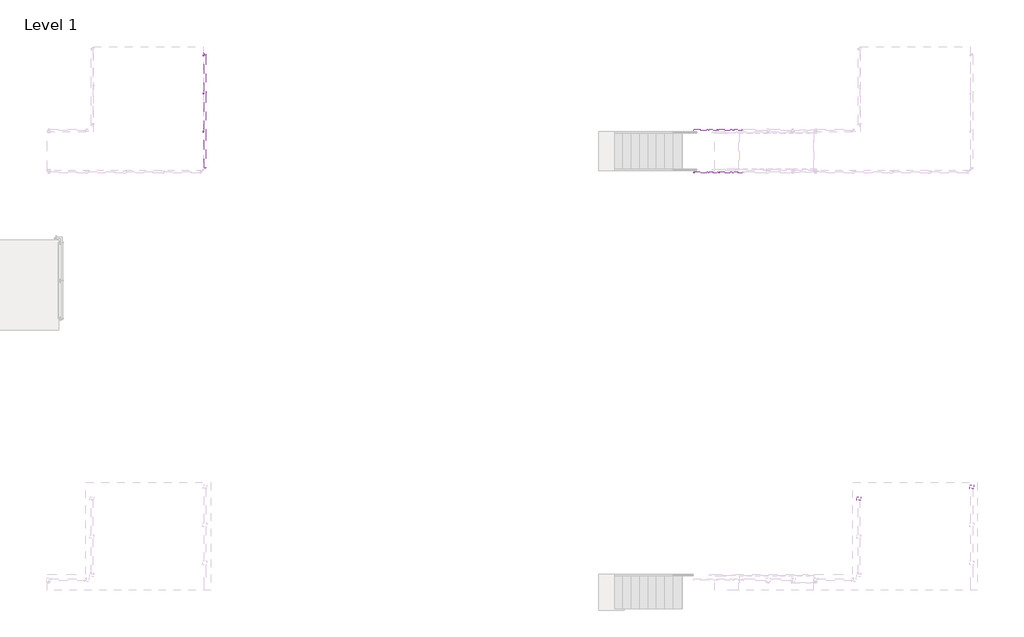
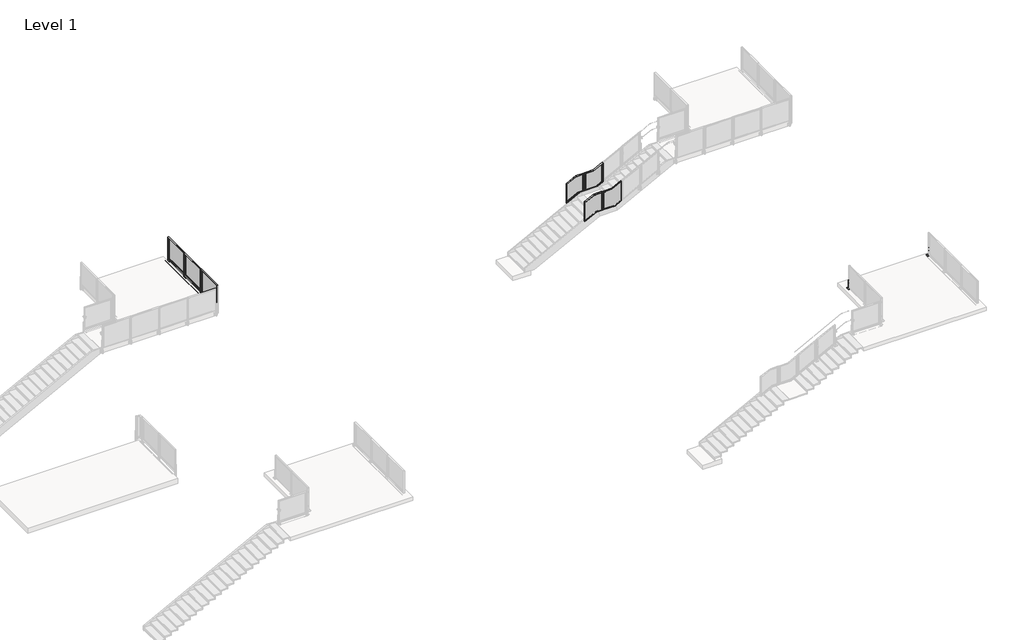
# One storey, part 21 of 37: 5 railings, 3 proxies.
"""IFC4 building model written with IfcOpenShell, lengths in millimetres."""

from ifc_helpers import new_model, si_unit, point, frame, frame_2d, origin, place, context, project, spatial, polyline, circle_curve, trimmed, segment, composite_curve, outline, extrude, faceted_brep, transform, mapped, element, save
from ifc_brep_helpers import plane_surface, cylinder_surface, advanced_brep
from components import baluster_end_post_viva_frame_top_mount_efd1a991, baluster_end_post_viva_frame_top_mount_welded_fascia_mount_f3869cb3, baluster_landing_panel_viva_frame_lower_standard_pp01_a1165722, baluster_landing_panel_viva_frame_lower_standard_pp01_71fd184b, baluster_landing_panel_viva_frame_upper_standard_pp01_df324889, baluster_landing_panel_viva_frame_upper_standard_pp01_eb854fba

model = new_model("IFC4")

# Units and contexts
model_context = context("Model", 3, world=origin())
ifc_project = project(units=[si_unit("LENGTHUNIT", "METRE", prefix="MILLI")], contexts=[model_context])

# Site, building, storey
site = spatial("IfcSite", under=ifc_project)
building = spatial("IfcBuilding", under=site)
storey = spatial("IfcBuildingStorey", under=building, Name="Level 1", Elevation=0.0)

# Proxies
placement = place(None, origin())
baluster_end_post_viva_frame_top_mount_shape = baluster_end_post_viva_frame_top_mount_efd1a991(model_context)
element("IfcBuildingElementProxy", 1, Name="Baluster-End-Post-VIVA-FRAME-Top Mount : ANCHORED TO CONCRETE_TOP MOUNT FOLD_STRAIGHT", ObjectType="Baluster-End-Post-VIVA-FRAME-Top Mount : ANCHORED TO CONCRETE_TOP MOUNT FOLD_STRAIGHT", at=placement, inside=storey, context=model_context, shape_type="MappedRepresentation", body=[
    mapped(baluster_end_post_viva_frame_top_mount_shape, transform((-5877.9959244, -14872.2829234, 3047.492), x_axis=(0.0, -1.0, 0.0), y_axis=(1.0, 0.0, 0.0), z_axis=(0.0, 0.0, 1.0))),
])
element("IfcBuildingElementProxy", 2, Name="Baluster-End-Post-VIVA-FRAME-Top Mount : ANCHORED TO CONCRETE_TOP MOUNT FOLD_STRAIGHT", ObjectType="Baluster-End-Post-VIVA-FRAME-Top Mount : ANCHORED TO CONCRETE_TOP MOUNT FOLD_STRAIGHT", at=placement, inside=storey, context=model_context, shape_type="MappedRepresentation", body=[
    mapped(baluster_end_post_viva_frame_top_mount_shape, transform((-2300.8759339, -14480.5208207, 3047.492), x_axis=(0.0, 1.0, 0.0), y_axis=(-1.0, 0.0, 0.0), z_axis=(0.0, 0.0, 1.0))),
])
baluster_end_post_viva_frame_top_mount_welded_fascia_mount_shape = baluster_end_post_viva_frame_top_mount_welded_fascia_mount_f3869cb3(model_context)
element("IfcBuildingElementProxy", 3, Name="Baluster-End-Post-VIVA-FRAME-Top Mount : WELDED Fascia MOUNT FOLD_STRAIGHT", ObjectType="Baluster-End-Post-VIVA-FRAME-Top Mount : WELDED Fascia MOUNT FOLD_STRAIGHT", at=placement, inside=storey, context=model_context, shape_type="MappedRepresentation", body=[
    mapped(baluster_end_post_viva_frame_top_mount_welded_fascia_mount_shape, transform((-27933.3000339, -32.9169538, 3047.492), x_axis=(0.0, 1.0, 0.0), y_axis=(-1.0, 0.0, 0.0), z_axis=(0.0, 0.0, 1.0))),
])

# Railings
baluster_landing_panel_viva_frame_lower_standard_pp01_shape = baluster_landing_panel_viva_frame_lower_standard_pp01_a1165722(model_context)
element("IfcRailing", 4, ObjectType="Baluster-Landing-Panel-VIVA-FRAME-Lower : Standard_PP01", at=placement, inside=storey, context=model_context, shape_type="MappedRepresentation", body=[
    mapped(baluster_landing_panel_viva_frame_lower_standard_pp01_shape, transform((-11484.6546311, -4005.1040233, 1733.4542898), x_axis=(0.0, 1.0, 0.0), y_axis=(-1.0, 0.0, 0.0), z_axis=(0.0, 0.0, 1.0))),
])
baluster_landing_panel_viva_frame_lower_standard_pp01_2_shape = baluster_landing_panel_viva_frame_lower_standard_pp01_71fd184b(model_context)
element("IfcRailing", 5, ObjectType="Baluster-Landing-Panel-VIVA-FRAME-Lower : Standard_PP01", at=placement, inside=storey, context=model_context, shape_type="MappedRepresentation", body=[
    mapped(baluster_landing_panel_viva_frame_lower_standard_pp01_2_shape, transform((-11484.6546311, -2513.2829651, 1733.4542898), x_axis=(0.0, -1.0, 0.0), y_axis=(1.0, 0.0, 0.0), z_axis=(0.0, 0.0, 1.0))),
])
baluster_landing_panel_viva_frame_upper_standard_pp01_shape = baluster_landing_panel_viva_frame_upper_standard_pp01_df324889(model_context)
element("IfcRailing", 6, ObjectType="Baluster-Landing-Panel-VIVA-FRAME-Upper : Standard_PP01", at=placement, inside=storey, context=model_context, shape_type="MappedRepresentation", body=[
    mapped(baluster_landing_panel_viva_frame_upper_standard_pp01_shape, transform((-10816.5460392, -4059.7684376, 1736.2385299), x_axis=(0.0, 1.0, 0.0), y_axis=(-1.0, 0.0, 0.0), z_axis=(0.0, 0.0, 1.0))),
])
baluster_landing_panel_viva_frame_upper_standard_pp01_2_shape = baluster_landing_panel_viva_frame_upper_standard_pp01_eb854fba(model_context)
element("IfcRailing", 7, ObjectType="Baluster-Landing-Panel-VIVA-FRAME-Upper : Standard_PP01", at=placement, inside=storey, context=model_context, shape_type="MappedRepresentation", body=[
    mapped(baluster_landing_panel_viva_frame_upper_standard_pp01_2_shape, transform((-10816.5460392, -2458.6185508, 1736.2385299), x_axis=(0.0, -1.0, 0.0), y_axis=(1.0, 0.0, 0.0), z_axis=(0.0, 0.0, 1.0))),
])
element("IfcRailing", 8, ObjectType="Metal-Panel-VIVA-FRAME-Fascia-Straight", at=placement, inside=storey, context=model_context, shape_type="SolidModel", body=[
    extrude(outline(composite_curve([segment(trimmed(circle_curve(frame_2d((3047.746, -27933.3000339)), 0.254), [point((3047.746, -27933.0460339))], [point((3047.746, -27933.5540339))], False, "CARTESIAN"), True, "CONTINUOUS"), segment(trimmed(circle_curve(frame_2d((3047.746, -27933.3000339)), 0.254), [point((3047.746, -27933.5540339))], [point((3047.746, -27933.0460339))], False, "CARTESIAN"), True, "CONTINUOUS")], self_intersect=False)), frame((0.0, -3842.9169538, 0.0), z_axis=(0.0, 1.0, 0.0), x_axis=(0.0, 0.0, 1.0)), (0.0, 0.0, 1.0), 3810.0),
    extrude(outline(composite_curve([segment(trimmed(circle_curve(frame_2d((3047.746, -27933.3000339)), 0.254), [point((3047.746, -27933.0460339))], [point((3047.746, -27933.5540339))], False, "CARTESIAN"), True, "CONTINUOUS"), segment(trimmed(circle_curve(frame_2d((3047.746, -27933.3000339)), 0.254), [point((3047.746, -27933.5540339))], [point((3047.746, -27933.0460339))], False, "CARTESIAN"), True, "CONTINUOUS")], self_intersect=False)), frame((0.0, -3842.9169538, 0.0), z_axis=(0.0, 1.0, 0.0), x_axis=(0.0, 0.0, 1.0)), (0.0, 0.0, 1.0), 3810.0),
    extrude(outline(polyline([(-27778.8412339, -1262.0904969), (-27781.8412339, -1262.0904969), (-27781.8412339, -73.7434108), (-27778.8412339, -73.7434108), (-27778.8412339, -1262.0904969)])), frame((0.0, 0.0, 3124.1959569), z_axis=(0.0, 0.0, 1.0), x_axis=(1.0, 0.0, 0.0)), (0.0, 0.0, 1.0), 990.5826861),
    faceted_brep([(-27778.8412339, -1287.4904969, 4140.1786431), (-27778.8412339, -1287.4904969, 3098.7959569), (-27778.8412339, -48.3434108, 3098.7959569), (-27778.8412339, -48.3434108, 4140.1786431), (-27778.8412339, -1262.0904969, 4114.7786431), (-27778.8412339, -73.7434108, 4114.7786431), (-27778.8412339, -73.7434108, 3124.1959569), (-27778.8412339, -1262.0904969, 3124.1959569), (-27781.8412339, -73.7434108, 3124.1959569), (-27781.8412339, -1262.0904969, 3124.1959569), (-27781.8412339, -73.7434108, 4114.7786431), (-27781.8412339, -1262.0904969, 4114.7786431), (-27832.6412339, -1281.4960969, 3104.7903569), (-27801.8310339, -1281.4960969, 3104.7903569), (-27801.8310339, -54.3378108, 3104.7903569), (-27832.6412339, -54.3378108, 3104.7903569), (-27801.8310339, -54.3378108, 4134.1842431), (-27832.6412339, -54.3378108, 4134.1842431), (-27832.6412339, -1281.4960969, 4134.1842431), (-27801.8310339, -1281.4960969, 4134.1842431), (-27832.6412339, -48.3434108, 3098.7959569), (-27832.6412339, -1287.4904969, 3098.7959569), (-27832.6412339, -1287.4904969, 4140.1786431), (-27832.6412339, -48.3434108, 4140.1786431), (-27781.8412339, -1236.6904969, 4089.3786431), (-27781.8412339, -99.1434108, 4089.3786431), (-27781.8412339, -99.1434108, 3149.5959569), (-27781.8412339, -1236.6904969, 3149.5959569), (-27801.8310339, -99.1434108, 3149.5959569), (-27801.8310339, -99.1434108, 4089.3786431), (-27801.8310339, -1236.6904969, 4089.3786431), (-27801.8310339, -1236.6904969, 3149.5959569)], [[[0, 1, 2, 3], [4, 5, 6, 7]], [[7, 6, 8, 9]], [[6, 5, 10, 8]], [[5, 4, 11, 10]], [[4, 7, 9, 11]], [[12, 13, 14, 15]], [[15, 14, 16, 17]], [[13, 12, 18, 19]], [[20, 21, 22, 23], [12, 15, 17, 18]], [[21, 1, 0, 22]], [[21, 20, 2, 1]], [[2, 20, 23, 3]], [[22, 0, 3, 23]], [[11, 9, 8, 10], [24, 25, 26, 27]], [[14, 13, 19, 16], [28, 29, 30, 31]], [[19, 18, 17, 16]], [[25, 24, 30, 29]], [[26, 25, 29, 28]], [[27, 26, 28, 31]], [[24, 27, 31, 30]]]),
    extrude(outline(composite_curve([segment(polyline([(-27784.4163271, -1325.1419538), (-27842.3172339, -1325.1419538), (-27842.3172339, -1280.6919538), (-27784.4163271, -1280.6919538)]), True, "CONTINUOUS"), segment(trimmed(circle_curve(frame_2d((-27784.4163271, -1302.9169538)), 22.225), [point((-27784.4163271, -1280.6919538))], [point((-27784.4163271, -1325.1419538))], False, "CARTESIAN"), True, "CONTINUOUS")], self_intersect=False)), frame((0.0, 0.0, 2859.0748), z_axis=(0.0, 0.0, 1.0), x_axis=(1.0, 0.0, 0.0)), (0.0, 0.0, 1.0), 12.7),
    extrude(outline(composite_curve([segment(polyline([(-27842.3172339, -1280.6919538), (-27784.4163271, -1280.6919538)]), True, "CONTINUOUS"), segment(trimmed(circle_curve(frame_2d((-27784.4163271, -1302.9169538)), 22.225), [point((-27784.4163271, -1280.6919538))], [point((-27784.4163271, -1325.1419538))], False, "CARTESIAN"), True, "CONTINUOUS"), segment(polyline([(-27784.4163271, -1325.1419538), (-27842.3172339, -1325.1419538), (-27842.3172339, -1280.6919538)]), True, "CONTINUOUS")], self_intersect=False)), frame((0.0, 0.0, 2921.0), z_axis=(0.0, 0.0, 1.0), x_axis=(1.0, 0.0, 0.0)), (0.0, 0.0, 1.0), 12.7),
    extrude(outline(composite_curve([segment(trimmed(circle_curve(frame_2d((-1258.4720219, 2941.6502)), 4.7752), [point((-1253.6968219, 2941.6502))], [point((-1263.2472219, 2941.6502))], False, "CARTESIAN"), True, "CONTINUOUS"), segment(trimmed(circle_curve(frame_2d((-1258.4720219, 2941.6502)), 4.7752), [point((-1263.2472219, 2941.6502))], [point((-1253.6968219, 2941.6502))], False, "CARTESIAN"), True, "CONTINUOUS")], self_intersect=False)), frame((-27851.8422339, 0.0, 0.0), z_axis=(1.0, 0.0, 0.0), x_axis=(0.0, 1.0, 0.0)), (0.0, 0.0, 1.0), 14.3002),
    extrude(outline(composite_curve([segment(trimmed(circle_curve(frame_2d((-1347.3618857, 2941.6502)), 4.7752), [point((-1342.5866857, 2941.6502))], [point((-1352.1370857, 2941.6502))], False, "CARTESIAN"), True, "CONTINUOUS"), segment(trimmed(circle_curve(frame_2d((-1347.3618857, 2941.6502)), 4.7752), [point((-1352.1370857, 2941.6502))], [point((-1342.5866857, 2941.6502))], False, "CARTESIAN"), True, "CONTINUOUS")], self_intersect=False)), frame((-27851.8422339, 0.0, 0.0), z_axis=(1.0, 0.0, 0.0), x_axis=(0.0, 1.0, 0.0)), (0.0, 0.0, 1.0), 14.3002),
    extrude(outline(composite_curve([segment(trimmed(circle_curve(frame_2d((-1347.3618857, 2852.7502)), 4.7752), [point((-1342.5866857, 2852.7502))], [point((-1352.1370857, 2852.7502))], False, "CARTESIAN"), True, "CONTINUOUS"), segment(trimmed(circle_curve(frame_2d((-1347.3618857, 2852.7502)), 4.7752), [point((-1352.1370857, 2852.7502))], [point((-1342.5866857, 2852.7502))], False, "CARTESIAN"), True, "CONTINUOUS")], self_intersect=False)), frame((-27851.8422339, 0.0, 0.0), z_axis=(1.0, 0.0, 0.0), x_axis=(0.0, 1.0, 0.0)), (0.0, 0.0, 1.0), 14.3002),
    extrude(outline(composite_curve([segment(trimmed(circle_curve(frame_2d((-1258.4720219, 2852.7502)), 4.7752), [point((-1253.6968219, 2852.7502))], [point((-1263.2472219, 2852.7502))], False, "CARTESIAN"), True, "CONTINUOUS"), segment(trimmed(circle_curve(frame_2d((-1258.4720219, 2852.7502)), 4.7752), [point((-1263.2472219, 2852.7502))], [point((-1253.6968219, 2852.7502))], False, "CARTESIAN"), True, "CONTINUOUS")], self_intersect=False)), frame((-27851.8422339, 0.0, 0.0), z_axis=(1.0, 0.0, 0.0), x_axis=(0.0, 1.0, 0.0)), (0.0, 0.0, 1.0), 14.3002),
    extrude(outline(polyline([(-27851.8422339, -1239.4189323), (-27851.8422339, -1366.4149754), (-27861.3672339, -1366.4149754), (-27861.3672339, -1239.4189323), (-27851.8422339, -1239.4189323)])), frame((0.0, 0.0, 2833.7002), z_axis=(0.0, 0.0, 1.0), x_axis=(1.0, 0.0, 0.0)), (0.0, 0.0, 1.0), 127.0),
    extrude(outline(polyline([(-27842.3172339, -1239.4189323), (-27842.3172339, -1366.4149754), (-27851.8422339, -1366.4149754), (-27851.8422339, -1239.4189323), (-27842.3172339, -1239.4189323)])), frame((0.0, 0.0, 2833.7002), z_axis=(0.0, 0.0, 1.0), x_axis=(1.0, 0.0, 0.0)), (0.0, 0.0, 1.0), 127.0),
    advanced_brep(
    [(-27804.2172339, -1329.1043538, 3178.1496), (-27804.2172339, -1329.1043538, 3197.2504), (-27804.2172339, -1329.1043538, 3187.7), (-27804.2172339, -1324.3291538, 3178.1496), (-27804.2172339, -1324.3291538, 3197.2504), (-27804.2172339, -1324.3291538, 3182.9248), (-27804.2172339, -1324.3291538, 3192.4752), (-27804.2172339, -1281.5047538, 3182.9248), (-27804.2172339, -1281.5047538, 3192.4752), (-27804.2172339, -1281.5047538, 3178.1496), (-27804.2172339, -1281.5047538, 3197.2504), (-27804.2172339, -1276.7295538, 3178.1496), (-27804.2172339, -1276.7295538, 3197.2504), (-27804.2172339, -1276.7295538, 3187.7)],
    [
        (0, 1, circle_curve(frame((-27804.2172339, -1329.1043538, 3187.7), z_axis=(0.0, -1.0, 0.0), x_axis=(0.0, 0.0, 1.0)), 9.5504)),
        (1, 2),
        (2, 0),
        (1, 0, circle_curve(frame((-27804.2172339, -1329.1043538, 3187.7), z_axis=(0.0, -1.0, 0.0), x_axis=(0.0, 0.0, 1.0)), 9.5504)),
        (3, 4, circle_curve(frame((-27804.2172339, -1324.3291538, 3187.7), z_axis=(0.0, -1.0, 0.0), x_axis=(0.0, 0.0, 1.0)), 9.5504)),
        (4, 1),
        (0, 3),
        (4, 3, circle_curve(frame((-27804.2172339, -1324.3291538, 3187.7), z_axis=(0.0, -1.0, 0.0), x_axis=(0.0, 0.0, 1.0)), 9.5504)),
        (5, 6, circle_curve(frame((-27804.2172339, -1324.3291538, 3187.7), z_axis=(0.0, -1.0, 0.0), x_axis=(0.0, 0.0, 1.0)), 4.7752)),
        (6, 4),
        (3, 5),
        (6, 5, circle_curve(frame((-27804.2172339, -1324.3291538, 3187.7), z_axis=(0.0, -1.0, 0.0), x_axis=(0.0, 0.0, 1.0)), 4.7752)),
        (7, 8, circle_curve(frame((-27804.2172339, -1281.5047538, 3187.7), z_axis=(0.0, -1.0, 0.0), x_axis=(0.0, 0.0, 1.0)), 4.7752)),
        (8, 6),
        (5, 7),
        (8, 7, circle_curve(frame((-27804.2172339, -1281.5047538, 3187.7), z_axis=(0.0, -1.0, 0.0), x_axis=(0.0, 0.0, 1.0)), 4.7752)),
        (9, 10, circle_curve(frame((-27804.2172339, -1281.5047538, 3187.7), z_axis=(0.0, -1.0, 0.0), x_axis=(0.0, 0.0, 1.0)), 9.5504)),
        (10, 8),
        (7, 9),
        (10, 9, circle_curve(frame((-27804.2172339, -1281.5047538, 3187.7), z_axis=(0.0, -1.0, 0.0), x_axis=(0.0, 0.0, 1.0)), 9.5504)),
        (11, 12, circle_curve(frame((-27804.2172339, -1276.7295538, 3187.7), z_axis=(0.0, -1.0, 0.0), x_axis=(0.0, 0.0, 1.0)), 9.5504)),
        (12, 10),
        (9, 11),
        (12, 11, circle_curve(frame((-27804.2172339, -1276.7295538, 3187.7), z_axis=(0.0, -1.0, 0.0), x_axis=(0.0, 0.0, 1.0)), 9.5504)),
        (13, 12),
        (11, 13),
    ],
    [
        plane_surface(frame((-27804.2172339, -1329.1043538, 3187.7), z_axis=(0.0, -1.0, 0.0), x_axis=(0.0, 0.0, 1.0))),
        cylinder_surface(frame((-27804.2172339, -4720.684711, 3187.7), z_axis=(0.0, 1.0, 0.0), x_axis=(0.0, 0.0, 1.0)), 9.5504),
        plane_surface(frame((-27804.2172339, -1324.3291538, 3187.7), z_axis=(0.0, 1.0, 0.0), x_axis=(0.0, 0.0, 1.0))),
        cylinder_surface(frame((-27804.2172339, -4720.684711, 3187.7), z_axis=(0.0, 1.0, 0.0), x_axis=(0.0, 0.0, 1.0)), 4.7752),
        plane_surface(frame((-27804.2172339, -1281.5047538, 3187.7), z_axis=(0.0, -1.0, 0.0), x_axis=(0.0, 0.0, 1.0))),
        plane_surface(frame((-27804.2172339, -1276.7295538, 3187.7), z_axis=(0.0, 1.0, 0.0), x_axis=(0.0, 0.0, 1.0))),
    ],
    [
        (0, [[1, 2, 3]]),
        (0, [[4, -3, -2]]),
        (1, [[5, 6, -1, 7]]),
        (1, [[8, -7, -4, -6]]),
        (2, [[9, 10, -5, 11]]),
        (2, [[12, -11, -8, -10]]),
        (3, [[13, 14, -9, 15]]),
        (3, [[16, -15, -12, -14]]),
        (4, [[17, 18, -13, 19]]),
        (4, [[20, -19, -16, -18]]),
        (1, [[21, 22, -17, 23]]),
        (1, [[24, -23, -20, -22]]),
        (5, [[25, -21, 26]]),
        (5, [[-26, -24, -25]]),
    ],
),
    advanced_brep(
    [(-27804.2172339, -1329.1043538, 3419.4496), (-27804.2172339, -1329.1043538, 3438.5504), (-27804.2172339, -1329.1043538, 3429.0), (-27804.2172339, -1324.3291538, 3419.4496), (-27804.2172339, -1324.3291538, 3438.5504), (-27804.2172339, -1324.3291538, 3424.2248), (-27804.2172339, -1324.3291538, 3433.7752), (-27804.2172339, -1281.5047538, 3424.2248), (-27804.2172339, -1281.5047538, 3433.7752), (-27804.2172339, -1281.5047538, 3419.4496), (-27804.2172339, -1281.5047538, 3438.5504), (-27804.2172339, -1276.7295538, 3419.4496), (-27804.2172339, -1276.7295538, 3438.5504), (-27804.2172339, -1276.7295538, 3429.0)],
    [
        (0, 1, circle_curve(frame((-27804.2172339, -1329.1043538, 3429.0), z_axis=(0.0, -1.0, 0.0), x_axis=(0.0, 0.0, 1.0)), 9.5504)),
        (1, 2),
        (2, 0),
        (1, 0, circle_curve(frame((-27804.2172339, -1329.1043538, 3429.0), z_axis=(0.0, -1.0, 0.0), x_axis=(0.0, 0.0, 1.0)), 9.5504)),
        (3, 4, circle_curve(frame((-27804.2172339, -1324.3291538, 3429.0), z_axis=(0.0, -1.0, 0.0), x_axis=(0.0, 0.0, 1.0)), 9.5504)),
        (4, 1),
        (0, 3),
        (4, 3, circle_curve(frame((-27804.2172339, -1324.3291538, 3429.0), z_axis=(0.0, -1.0, 0.0), x_axis=(0.0, 0.0, 1.0)), 9.5504)),
        (5, 6, circle_curve(frame((-27804.2172339, -1324.3291538, 3429.0), z_axis=(0.0, -1.0, 0.0), x_axis=(0.0, 0.0, 1.0)), 4.7752)),
        (6, 4),
        (3, 5),
        (6, 5, circle_curve(frame((-27804.2172339, -1324.3291538, 3429.0), z_axis=(0.0, -1.0, 0.0), x_axis=(0.0, 0.0, 1.0)), 4.7752)),
        (7, 8, circle_curve(frame((-27804.2172339, -1281.5047538, 3429.0), z_axis=(0.0, -1.0, 0.0), x_axis=(0.0, 0.0, 1.0)), 4.7752)),
        (8, 6),
        (5, 7),
        (8, 7, circle_curve(frame((-27804.2172339, -1281.5047538, 3429.0), z_axis=(0.0, -1.0, 0.0), x_axis=(0.0, 0.0, 1.0)), 4.7752)),
        (9, 10, circle_curve(frame((-27804.2172339, -1281.5047538, 3429.0), z_axis=(0.0, -1.0, 0.0), x_axis=(0.0, 0.0, 1.0)), 9.5504)),
        (10, 8),
        (7, 9),
        (10, 9, circle_curve(frame((-27804.2172339, -1281.5047538, 3429.0), z_axis=(0.0, -1.0, 0.0), x_axis=(0.0, 0.0, 1.0)), 9.5504)),
        (11, 12, circle_curve(frame((-27804.2172339, -1276.7295538, 3429.0), z_axis=(0.0, -1.0, 0.0), x_axis=(0.0, 0.0, 1.0)), 9.5504)),
        (12, 10),
        (9, 11),
        (12, 11, circle_curve(frame((-27804.2172339, -1276.7295538, 3429.0), z_axis=(0.0, -1.0, 0.0), x_axis=(0.0, 0.0, 1.0)), 9.5504)),
        (13, 12),
        (11, 13),
    ],
    [
        plane_surface(frame((-27804.2172339, -1329.1043538, 3429.0), z_axis=(0.0, -1.0, 0.0), x_axis=(0.0, 0.0, 1.0))),
        cylinder_surface(frame((-27804.2172339, -4720.684711, 3429.0), z_axis=(0.0, 1.0, 0.0), x_axis=(0.0, 0.0, 1.0)), 9.5504),
        plane_surface(frame((-27804.2172339, -1324.3291538, 3429.0), z_axis=(0.0, 1.0, 0.0), x_axis=(0.0, 0.0, 1.0))),
        cylinder_surface(frame((-27804.2172339, -4720.684711, 3429.0), z_axis=(0.0, 1.0, 0.0), x_axis=(0.0, 0.0, 1.0)), 4.7752),
        plane_surface(frame((-27804.2172339, -1281.5047538, 3429.0), z_axis=(0.0, -1.0, 0.0), x_axis=(0.0, 0.0, 1.0))),
        plane_surface(frame((-27804.2172339, -1276.7295538, 3429.0), z_axis=(0.0, 1.0, 0.0), x_axis=(0.0, 0.0, 1.0))),
    ],
    [
        (0, [[1, 2, 3]]),
        (0, [[4, -3, -2]]),
        (1, [[5, 6, -1, 7]]),
        (1, [[8, -7, -4, -6]]),
        (2, [[9, 10, -5, 11]]),
        (2, [[12, -11, -8, -10]]),
        (3, [[13, 14, -9, 15]]),
        (3, [[16, -15, -12, -14]]),
        (4, [[17, 18, -13, 19]]),
        (4, [[20, -19, -16, -18]]),
        (1, [[21, 22, -17, 23]]),
        (1, [[24, -23, -20, -22]]),
        (5, [[25, -21, 26]]),
        (5, [[-26, -24, -25]]),
    ],
),
    extrude(outline(polyline([(-27826.4422339, -1310.8565455), (-27826.4422339, -1294.9773622), (-27781.9922339, -1294.9773622), (-27781.9922339, -1310.8565455), (-27826.4422339, -1310.8565455)])), frame((0.0, 0.0, 2865.4248), z_axis=(0.0, 0.0, 1.0), x_axis=(1.0, 0.0, 0.0)), (0.0, 0.0, 1.0), 588.9752),
    extrude(outline(polyline([(-27778.8412339, -2532.0904969), (-27781.8412339, -2532.0904969), (-27781.8412339, -1343.7434108), (-27778.8412339, -1343.7434108), (-27778.8412339, -2532.0904969)])), frame((0.0, 0.0, 3124.1959569), z_axis=(0.0, 0.0, 1.0), x_axis=(1.0, 0.0, 0.0)), (0.0, 0.0, 1.0), 990.5826861),
    faceted_brep([(-27778.8412339, -2557.4904969, 4140.1786431), (-27778.8412339, -2557.4904969, 3098.7959569), (-27778.8412339, -1318.3434108, 3098.7959569), (-27778.8412339, -1318.3434108, 4140.1786431), (-27778.8412339, -2532.0904969, 4114.7786431), (-27778.8412339, -1343.7434108, 4114.7786431), (-27778.8412339, -1343.7434108, 3124.1959569), (-27778.8412339, -2532.0904969, 3124.1959569), (-27781.8412339, -1343.7434108, 3124.1959569), (-27781.8412339, -2532.0904969, 3124.1959569), (-27781.8412339, -1343.7434108, 4114.7786431), (-27781.8412339, -2532.0904969, 4114.7786431), (-27832.6412339, -2551.4960969, 3104.7903569), (-27801.8310339, -2551.4960969, 3104.7903569), (-27801.8310339, -1324.3378108, 3104.7903569), (-27832.6412339, -1324.3378108, 3104.7903569), (-27801.8310339, -1324.3378108, 4134.1842431), (-27832.6412339, -1324.3378108, 4134.1842431), (-27832.6412339, -2551.4960969, 4134.1842431), (-27801.8310339, -2551.4960969, 4134.1842431), (-27832.6412339, -1318.3434108, 3098.7959569), (-27832.6412339, -2557.4904969, 3098.7959569), (-27832.6412339, -2557.4904969, 4140.1786431), (-27832.6412339, -1318.3434108, 4140.1786431), (-27781.8412339, -2506.6904969, 4089.3786431), (-27781.8412339, -1369.1434108, 4089.3786431), (-27781.8412339, -1369.1434108, 3149.5959569), (-27781.8412339, -2506.6904969, 3149.5959569), (-27801.8310339, -1369.1434108, 3149.5959569), (-27801.8310339, -1369.1434108, 4089.3786431), (-27801.8310339, -2506.6904969, 4089.3786431), (-27801.8310339, -2506.6904969, 3149.5959569)], [[[0, 1, 2, 3], [4, 5, 6, 7]], [[7, 6, 8, 9]], [[6, 5, 10, 8]], [[5, 4, 11, 10]], [[4, 7, 9, 11]], [[12, 13, 14, 15]], [[15, 14, 16, 17]], [[13, 12, 18, 19]], [[20, 21, 22, 23], [12, 15, 17, 18]], [[21, 1, 0, 22]], [[21, 20, 2, 1]], [[2, 20, 23, 3]], [[22, 0, 3, 23]], [[11, 9, 8, 10], [24, 25, 26, 27]], [[14, 13, 19, 16], [28, 29, 30, 31]], [[19, 18, 17, 16]], [[25, 24, 30, 29]], [[26, 25, 29, 28]], [[27, 26, 28, 31]], [[24, 27, 31, 30]]]),
    extrude(outline(composite_curve([segment(polyline([(-27784.4163271, -2595.1419538), (-27842.3172339, -2595.1419538), (-27842.3172339, -2550.6919538), (-27784.4163271, -2550.6919538)]), True, "CONTINUOUS"), segment(trimmed(circle_curve(frame_2d((-27784.4163271, -2572.9169538)), 22.225), [point((-27784.4163271, -2550.6919538))], [point((-27784.4163271, -2595.1419538))], False, "CARTESIAN"), True, "CONTINUOUS")], self_intersect=False)), frame((0.0, 0.0, 2859.0748), z_axis=(0.0, 0.0, 1.0), x_axis=(1.0, 0.0, 0.0)), (0.0, 0.0, 1.0), 12.7),
    extrude(outline(composite_curve([segment(polyline([(-27842.3172339, -2550.6919538), (-27784.4163271, -2550.6919538)]), True, "CONTINUOUS"), segment(trimmed(circle_curve(frame_2d((-27784.4163271, -2572.9169538)), 22.225), [point((-27784.4163271, -2550.6919538))], [point((-27784.4163271, -2595.1419538))], False, "CARTESIAN"), True, "CONTINUOUS"), segment(polyline([(-27784.4163271, -2595.1419538), (-27842.3172339, -2595.1419538), (-27842.3172339, -2550.6919538)]), True, "CONTINUOUS")], self_intersect=False)), frame((0.0, 0.0, 2921.0), z_axis=(0.0, 0.0, 1.0), x_axis=(1.0, 0.0, 0.0)), (0.0, 0.0, 1.0), 12.7),
    extrude(outline(composite_curve([segment(trimmed(circle_curve(frame_2d((-2528.4720219, 2941.6502)), 4.7752), [point((-2523.6968219, 2941.6502))], [point((-2533.2472219, 2941.6502))], False, "CARTESIAN"), True, "CONTINUOUS"), segment(trimmed(circle_curve(frame_2d((-2528.4720219, 2941.6502)), 4.7752), [point((-2533.2472219, 2941.6502))], [point((-2523.6968219, 2941.6502))], False, "CARTESIAN"), True, "CONTINUOUS")], self_intersect=False)), frame((-27851.8422339, 0.0, 0.0), z_axis=(1.0, 0.0, 0.0), x_axis=(0.0, 1.0, 0.0)), (0.0, 0.0, 1.0), 14.3002),
    extrude(outline(composite_curve([segment(trimmed(circle_curve(frame_2d((-2617.3618857, 2941.6502)), 4.7752), [point((-2612.5866857, 2941.6502))], [point((-2622.1370857, 2941.6502))], False, "CARTESIAN"), True, "CONTINUOUS"), segment(trimmed(circle_curve(frame_2d((-2617.3618857, 2941.6502)), 4.7752), [point((-2622.1370857, 2941.6502))], [point((-2612.5866857, 2941.6502))], False, "CARTESIAN"), True, "CONTINUOUS")], self_intersect=False)), frame((-27851.8422339, 0.0, 0.0), z_axis=(1.0, 0.0, 0.0), x_axis=(0.0, 1.0, 0.0)), (0.0, 0.0, 1.0), 14.3002),
    extrude(outline(composite_curve([segment(trimmed(circle_curve(frame_2d((-2617.3618857, 2852.7502)), 4.7752), [point((-2612.5866857, 2852.7502))], [point((-2622.1370857, 2852.7502))], False, "CARTESIAN"), True, "CONTINUOUS"), segment(trimmed(circle_curve(frame_2d((-2617.3618857, 2852.7502)), 4.7752), [point((-2622.1370857, 2852.7502))], [point((-2612.5866857, 2852.7502))], False, "CARTESIAN"), True, "CONTINUOUS")], self_intersect=False)), frame((-27851.8422339, 0.0, 0.0), z_axis=(1.0, 0.0, 0.0), x_axis=(0.0, 1.0, 0.0)), (0.0, 0.0, 1.0), 14.3002),
    extrude(outline(composite_curve([segment(trimmed(circle_curve(frame_2d((-2528.4720219, 2852.7502)), 4.7752), [point((-2523.6968219, 2852.7502))], [point((-2533.2472219, 2852.7502))], False, "CARTESIAN"), True, "CONTINUOUS"), segment(trimmed(circle_curve(frame_2d((-2528.4720219, 2852.7502)), 4.7752), [point((-2533.2472219, 2852.7502))], [point((-2523.6968219, 2852.7502))], False, "CARTESIAN"), True, "CONTINUOUS")], self_intersect=False)), frame((-27851.8422339, 0.0, 0.0), z_axis=(1.0, 0.0, 0.0), x_axis=(0.0, 1.0, 0.0)), (0.0, 0.0, 1.0), 14.3002),
    extrude(outline(polyline([(-27851.8422339, -2509.4189323), (-27851.8422339, -2636.4149754), (-27861.3672339, -2636.4149754), (-27861.3672339, -2509.4189323), (-27851.8422339, -2509.4189323)])), frame((0.0, 0.0, 2833.7002), z_axis=(0.0, 0.0, 1.0), x_axis=(1.0, 0.0, 0.0)), (0.0, 0.0, 1.0), 127.0),
    extrude(outline(polyline([(-27842.3172339, -2509.4189323), (-27842.3172339, -2636.4149754), (-27851.8422339, -2636.4149754), (-27851.8422339, -2509.4189323), (-27842.3172339, -2509.4189323)])), frame((0.0, 0.0, 2833.7002), z_axis=(0.0, 0.0, 1.0), x_axis=(1.0, 0.0, 0.0)), (0.0, 0.0, 1.0), 127.0),
    advanced_brep(
    [(-27804.2172339, -2599.1043538, 3178.1496), (-27804.2172339, -2599.1043538, 3197.2504), (-27804.2172339, -2599.1043538, 3187.7), (-27804.2172339, -2594.3291538, 3178.1496), (-27804.2172339, -2594.3291538, 3197.2504), (-27804.2172339, -2594.3291538, 3182.9248), (-27804.2172339, -2594.3291538, 3192.4752), (-27804.2172339, -2551.5047538, 3182.9248), (-27804.2172339, -2551.5047538, 3192.4752), (-27804.2172339, -2551.5047538, 3178.1496), (-27804.2172339, -2551.5047538, 3197.2504), (-27804.2172339, -2546.7295538, 3178.1496), (-27804.2172339, -2546.7295538, 3197.2504), (-27804.2172339, -2546.7295538, 3187.7)],
    [
        (0, 1, circle_curve(frame((-27804.2172339, -2599.1043538, 3187.7), z_axis=(0.0, -1.0, 0.0), x_axis=(0.0, 0.0, 1.0)), 9.5504)),
        (1, 2),
        (2, 0),
        (1, 0, circle_curve(frame((-27804.2172339, -2599.1043538, 3187.7), z_axis=(0.0, -1.0, 0.0), x_axis=(0.0, 0.0, 1.0)), 9.5504)),
        (3, 4, circle_curve(frame((-27804.2172339, -2594.3291538, 3187.7), z_axis=(0.0, -1.0, 0.0), x_axis=(0.0, 0.0, 1.0)), 9.5504)),
        (4, 1),
        (0, 3),
        (4, 3, circle_curve(frame((-27804.2172339, -2594.3291538, 3187.7), z_axis=(0.0, -1.0, 0.0), x_axis=(0.0, 0.0, 1.0)), 9.5504)),
        (5, 6, circle_curve(frame((-27804.2172339, -2594.3291538, 3187.7), z_axis=(0.0, -1.0, 0.0), x_axis=(0.0, 0.0, 1.0)), 4.7752)),
        (6, 4),
        (3, 5),
        (6, 5, circle_curve(frame((-27804.2172339, -2594.3291538, 3187.7), z_axis=(0.0, -1.0, 0.0), x_axis=(0.0, 0.0, 1.0)), 4.7752)),
        (7, 8, circle_curve(frame((-27804.2172339, -2551.5047538, 3187.7), z_axis=(0.0, -1.0, 0.0), x_axis=(0.0, 0.0, 1.0)), 4.7752)),
        (8, 6),
        (5, 7),
        (8, 7, circle_curve(frame((-27804.2172339, -2551.5047538, 3187.7), z_axis=(0.0, -1.0, 0.0), x_axis=(0.0, 0.0, 1.0)), 4.7752)),
        (9, 10, circle_curve(frame((-27804.2172339, -2551.5047538, 3187.7), z_axis=(0.0, -1.0, 0.0), x_axis=(0.0, 0.0, 1.0)), 9.5504)),
        (10, 8),
        (7, 9),
        (10, 9, circle_curve(frame((-27804.2172339, -2551.5047538, 3187.7), z_axis=(0.0, -1.0, 0.0), x_axis=(0.0, 0.0, 1.0)), 9.5504)),
        (11, 12, circle_curve(frame((-27804.2172339, -2546.7295538, 3187.7), z_axis=(0.0, -1.0, 0.0), x_axis=(0.0, 0.0, 1.0)), 9.5504)),
        (12, 10),
        (9, 11),
        (12, 11, circle_curve(frame((-27804.2172339, -2546.7295538, 3187.7), z_axis=(0.0, -1.0, 0.0), x_axis=(0.0, 0.0, 1.0)), 9.5504)),
        (13, 12),
        (11, 13),
    ],
    [
        plane_surface(frame((-27804.2172339, -2599.1043538, 3187.7), z_axis=(0.0, -1.0, 0.0), x_axis=(0.0, 0.0, 1.0))),
        cylinder_surface(frame((-27804.2172339, -5990.684711, 3187.7), z_axis=(0.0, 1.0, 0.0), x_axis=(0.0, 0.0, 1.0)), 9.5504),
        plane_surface(frame((-27804.2172339, -2594.3291538, 3187.7), z_axis=(0.0, 1.0, 0.0), x_axis=(0.0, 0.0, 1.0))),
        cylinder_surface(frame((-27804.2172339, -5990.684711, 3187.7), z_axis=(0.0, 1.0, 0.0), x_axis=(0.0, 0.0, 1.0)), 4.7752),
        plane_surface(frame((-27804.2172339, -2551.5047538, 3187.7), z_axis=(0.0, -1.0, 0.0), x_axis=(0.0, 0.0, 1.0))),
        plane_surface(frame((-27804.2172339, -2546.7295538, 3187.7), z_axis=(0.0, 1.0, 0.0), x_axis=(0.0, 0.0, 1.0))),
    ],
    [
        (0, [[1, 2, 3]]),
        (0, [[4, -3, -2]]),
        (1, [[5, 6, -1, 7]]),
        (1, [[8, -7, -4, -6]]),
        (2, [[9, 10, -5, 11]]),
        (2, [[12, -11, -8, -10]]),
        (3, [[13, 14, -9, 15]]),
        (3, [[16, -15, -12, -14]]),
        (4, [[17, 18, -13, 19]]),
        (4, [[20, -19, -16, -18]]),
        (1, [[21, 22, -17, 23]]),
        (1, [[24, -23, -20, -22]]),
        (5, [[25, -21, 26]]),
        (5, [[-26, -24, -25]]),
    ],
),
    advanced_brep(
    [(-27804.2172339, -2599.1043538, 3419.4496), (-27804.2172339, -2599.1043538, 3438.5504), (-27804.2172339, -2599.1043538, 3429.0), (-27804.2172339, -2594.3291538, 3419.4496), (-27804.2172339, -2594.3291538, 3438.5504), (-27804.2172339, -2594.3291538, 3424.2248), (-27804.2172339, -2594.3291538, 3433.7752), (-27804.2172339, -2551.5047538, 3424.2248), (-27804.2172339, -2551.5047538, 3433.7752), (-27804.2172339, -2551.5047538, 3419.4496), (-27804.2172339, -2551.5047538, 3438.5504), (-27804.2172339, -2546.7295538, 3419.4496), (-27804.2172339, -2546.7295538, 3438.5504), (-27804.2172339, -2546.7295538, 3429.0)],
    [
        (0, 1, circle_curve(frame((-27804.2172339, -2599.1043538, 3429.0), z_axis=(0.0, -1.0, 0.0), x_axis=(0.0, 0.0, 1.0)), 9.5504)),
        (1, 2),
        (2, 0),
        (1, 0, circle_curve(frame((-27804.2172339, -2599.1043538, 3429.0), z_axis=(0.0, -1.0, 0.0), x_axis=(0.0, 0.0, 1.0)), 9.5504)),
        (3, 4, circle_curve(frame((-27804.2172339, -2594.3291538, 3429.0), z_axis=(0.0, -1.0, 0.0), x_axis=(0.0, 0.0, 1.0)), 9.5504)),
        (4, 1),
        (0, 3),
        (4, 3, circle_curve(frame((-27804.2172339, -2594.3291538, 3429.0), z_axis=(0.0, -1.0, 0.0), x_axis=(0.0, 0.0, 1.0)), 9.5504)),
        (5, 6, circle_curve(frame((-27804.2172339, -2594.3291538, 3429.0), z_axis=(0.0, -1.0, 0.0), x_axis=(0.0, 0.0, 1.0)), 4.7752)),
        (6, 4),
        (3, 5),
        (6, 5, circle_curve(frame((-27804.2172339, -2594.3291538, 3429.0), z_axis=(0.0, -1.0, 0.0), x_axis=(0.0, 0.0, 1.0)), 4.7752)),
        (7, 8, circle_curve(frame((-27804.2172339, -2551.5047538, 3429.0), z_axis=(0.0, -1.0, 0.0), x_axis=(0.0, 0.0, 1.0)), 4.7752)),
        (8, 6),
        (5, 7),
        (8, 7, circle_curve(frame((-27804.2172339, -2551.5047538, 3429.0), z_axis=(0.0, -1.0, 0.0), x_axis=(0.0, 0.0, 1.0)), 4.7752)),
        (9, 10, circle_curve(frame((-27804.2172339, -2551.5047538, 3429.0), z_axis=(0.0, -1.0, 0.0), x_axis=(0.0, 0.0, 1.0)), 9.5504)),
        (10, 8),
        (7, 9),
        (10, 9, circle_curve(frame((-27804.2172339, -2551.5047538, 3429.0), z_axis=(0.0, -1.0, 0.0), x_axis=(0.0, 0.0, 1.0)), 9.5504)),
        (11, 12, circle_curve(frame((-27804.2172339, -2546.7295538, 3429.0), z_axis=(0.0, -1.0, 0.0), x_axis=(0.0, 0.0, 1.0)), 9.5504)),
        (12, 10),
        (9, 11),
        (12, 11, circle_curve(frame((-27804.2172339, -2546.7295538, 3429.0), z_axis=(0.0, -1.0, 0.0), x_axis=(0.0, 0.0, 1.0)), 9.5504)),
        (13, 12),
        (11, 13),
    ],
    [
        plane_surface(frame((-27804.2172339, -2599.1043538, 3429.0), z_axis=(0.0, -1.0, 0.0), x_axis=(0.0, 0.0, 1.0))),
        cylinder_surface(frame((-27804.2172339, -5990.684711, 3429.0), z_axis=(0.0, 1.0, 0.0), x_axis=(0.0, 0.0, 1.0)), 9.5504),
        plane_surface(frame((-27804.2172339, -2594.3291538, 3429.0), z_axis=(0.0, 1.0, 0.0), x_axis=(0.0, 0.0, 1.0))),
        cylinder_surface(frame((-27804.2172339, -5990.684711, 3429.0), z_axis=(0.0, 1.0, 0.0), x_axis=(0.0, 0.0, 1.0)), 4.7752),
        plane_surface(frame((-27804.2172339, -2551.5047538, 3429.0), z_axis=(0.0, -1.0, 0.0), x_axis=(0.0, 0.0, 1.0))),
        plane_surface(frame((-27804.2172339, -2546.7295538, 3429.0), z_axis=(0.0, 1.0, 0.0), x_axis=(0.0, 0.0, 1.0))),
    ],
    [
        (0, [[1, 2, 3]]),
        (0, [[4, -3, -2]]),
        (1, [[5, 6, -1, 7]]),
        (1, [[8, -7, -4, -6]]),
        (2, [[9, 10, -5, 11]]),
        (2, [[12, -11, -8, -10]]),
        (3, [[13, 14, -9, 15]]),
        (3, [[16, -15, -12, -14]]),
        (4, [[17, 18, -13, 19]]),
        (4, [[20, -19, -16, -18]]),
        (1, [[21, 22, -17, 23]]),
        (1, [[24, -23, -20, -22]]),
        (5, [[25, -21, 26]]),
        (5, [[-26, -24, -25]]),
    ],
),
    extrude(outline(polyline([(-27826.4422339, -2580.8565455), (-27826.4422339, -2564.9773622), (-27781.9922339, -2564.9773622), (-27781.9922339, -2580.8565455), (-27826.4422339, -2580.8565455)])), frame((0.0, 0.0, 2865.4248), z_axis=(0.0, 0.0, 1.0), x_axis=(1.0, 0.0, 0.0)), (0.0, 0.0, 1.0), 588.9752),
    extrude(outline(polyline([(-27778.8412339, -3802.0904969), (-27781.8412339, -3802.0904969), (-27781.8412339, -2613.7434108), (-27778.8412339, -2613.7434108), (-27778.8412339, -3802.0904969)])), frame((0.0, 0.0, 3124.1959569), z_axis=(0.0, 0.0, 1.0), x_axis=(1.0, 0.0, 0.0)), (0.0, 0.0, 1.0), 990.5826861),
    faceted_brep([(-27778.8412339, -3827.4904969, 4140.1786431), (-27778.8412339, -3827.4904969, 3098.7959569), (-27778.8412339, -2588.3434108, 3098.7959569), (-27778.8412339, -2588.3434108, 4140.1786431), (-27778.8412339, -3802.0904969, 4114.7786431), (-27778.8412339, -2613.7434108, 4114.7786431), (-27778.8412339, -2613.7434108, 3124.1959569), (-27778.8412339, -3802.0904969, 3124.1959569), (-27781.8412339, -2613.7434108, 3124.1959569), (-27781.8412339, -3802.0904969, 3124.1959569), (-27781.8412339, -2613.7434108, 4114.7786431), (-27781.8412339, -3802.0904969, 4114.7786431), (-27832.6412339, -3821.4960969, 3104.7903569), (-27801.8310339, -3821.4960969, 3104.7903569), (-27801.8310339, -2594.3378108, 3104.7903569), (-27832.6412339, -2594.3378108, 3104.7903569), (-27801.8310339, -2594.3378108, 4134.1842431), (-27832.6412339, -2594.3378108, 4134.1842431), (-27832.6412339, -3821.4960969, 4134.1842431), (-27801.8310339, -3821.4960969, 4134.1842431), (-27832.6412339, -2588.3434108, 3098.7959569), (-27832.6412339, -3827.4904969, 3098.7959569), (-27832.6412339, -3827.4904969, 4140.1786431), (-27832.6412339, -2588.3434108, 4140.1786431), (-27781.8412339, -3776.6904969, 4089.3786431), (-27781.8412339, -2639.1434108, 4089.3786431), (-27781.8412339, -2639.1434108, 3149.5959569), (-27781.8412339, -3776.6904969, 3149.5959569), (-27801.8310339, -2639.1434108, 3149.5959569), (-27801.8310339, -2639.1434108, 4089.3786431), (-27801.8310339, -3776.6904969, 4089.3786431), (-27801.8310339, -3776.6904969, 3149.5959569)], [[[0, 1, 2, 3], [4, 5, 6, 7]], [[7, 6, 8, 9]], [[6, 5, 10, 8]], [[5, 4, 11, 10]], [[4, 7, 9, 11]], [[12, 13, 14, 15]], [[15, 14, 16, 17]], [[13, 12, 18, 19]], [[20, 21, 22, 23], [12, 15, 17, 18]], [[21, 1, 0, 22]], [[21, 20, 2, 1]], [[2, 20, 23, 3]], [[22, 0, 3, 23]], [[11, 9, 8, 10], [24, 25, 26, 27]], [[14, 13, 19, 16], [28, 29, 30, 31]], [[19, 18, 17, 16]], [[25, 24, 30, 29]], [[26, 25, 29, 28]], [[27, 26, 28, 31]], [[24, 27, 31, 30]]]),
])

save(model, "model.ifc")
